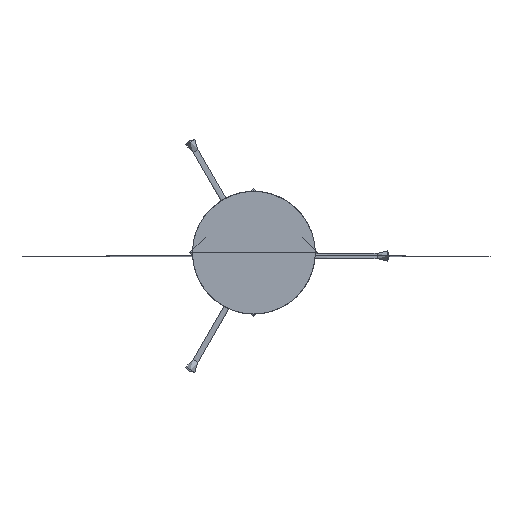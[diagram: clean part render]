
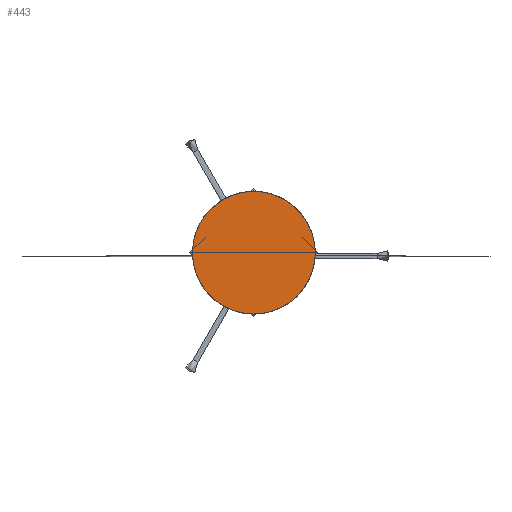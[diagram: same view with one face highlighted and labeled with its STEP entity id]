
A CAD part, top view. The second image highlights one B-rep face of the part: STEP entity #443.
In plain terms, the highlighted planar face has unit normal (0, 0, 1).
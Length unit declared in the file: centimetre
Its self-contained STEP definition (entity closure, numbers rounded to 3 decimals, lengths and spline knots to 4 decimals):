
#88=(
BOUNDED_CURVE()
B_SPLINE_CURVE(2,(#4757,#4758,#4759,#4760,#4761),.UNSPECIFIED.,.F.,.F.)
B_SPLINE_CURVE_WITH_KNOTS((3,2,3),(0.,70.8429,141.6858),
 .UNSPECIFIED.)
CURVE()
GEOMETRIC_REPRESENTATION_ITEM()
RATIONAL_B_SPLINE_CURVE((1.,0.707,1.,0.707,1.))
REPRESENTATION_ITEM('')
);
#90=(
BOUNDED_CURVE()
B_SPLINE_CURVE(2,(#4771,#4772,#4773,#4774,#4775),.UNSPECIFIED.,.F.,.F.)
B_SPLINE_CURVE_WITH_KNOTS((3,2,3),(141.6858,212.5287,283.3717),
 .UNSPECIFIED.)
CURVE()
GEOMETRIC_REPRESENTATION_ITEM()
RATIONAL_B_SPLINE_CURVE((1.,0.707,1.,0.707,1.))
REPRESENTATION_ITEM('')
);
#443=ADVANCED_FACE('',(#651),#3056,.T.);
#651=FACE_OUTER_BOUND('',#859,.T.);
#859=EDGE_LOOP('',(#1122,#1123));
#1122=ORIENTED_EDGE('',*,*,#2051,.F.);
#1123=ORIENTED_EDGE('',*,*,#2047,.F.);
#2047=EDGE_CURVE('',#2749,#2750,#88,.T.);
#2051=EDGE_CURVE('',#2750,#2749,#90,.T.);
#2749=VERTEX_POINT('',#4749);
#2750=VERTEX_POINT('',#4750);
#3056=PLANE('',#3244);
#3244=AXIS2_PLACEMENT_3D('',#4746,#3428,$);
#3428=DIRECTION('',(0.,0.,1.));
#4746=CARTESIAN_POINT('',(-45.11,458.4086,733.7306));
#4749=CARTESIAN_POINT('',(0.,368.1986,733.7306));
#4750=CARTESIAN_POINT('',(0.,458.3986,733.7306));
#4757=CARTESIAN_POINT('',(0.,368.1986,733.7306));
#4758=CARTESIAN_POINT('',(-45.1,368.1986,733.7306));
#4759=CARTESIAN_POINT('',(-45.1,413.2986,733.7306));
#4760=CARTESIAN_POINT('',(-45.1,458.3986,733.7306));
#4761=CARTESIAN_POINT('',(0.,458.3986,733.7306));
#4771=CARTESIAN_POINT('',(0.,458.3986,733.7306));
#4772=CARTESIAN_POINT('',(45.1,458.3986,733.7306));
#4773=CARTESIAN_POINT('',(45.1,413.2986,733.7306));
#4774=CARTESIAN_POINT('',(45.1,368.1986,733.7306));
#4775=CARTESIAN_POINT('',(0.,368.1986,733.7306));
